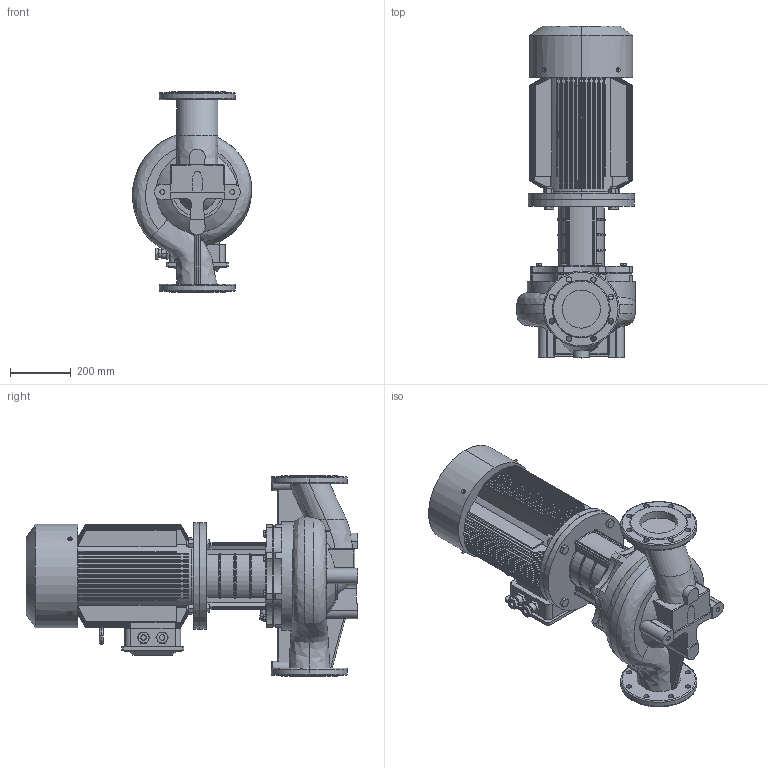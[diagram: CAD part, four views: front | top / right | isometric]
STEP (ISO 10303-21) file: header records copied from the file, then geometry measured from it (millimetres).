
FILE_DESCRIPTION(/* description */ (''),/* implementation_level */ '2;1');
FILE_NAME(/* name */ 'TD125-19-4安装尺寸图.stp',/* time_stamp */ '2026-09-07T16:34:58+08:00',/* author */ (''),/* organization */ (''),/* preprocessor_version */ 'ST-DEVELOPER v16.7',/* originating_system */ 'SIEMENS PLM Software NX 1847',/* authorisation */ '');
FILE_SCHEMA (('AP203_CONFIGURATION_CONTROLLED_3D_DESIGN_OF_MECHANICAL_PARTS_AND_ASSEMBLIES_MIM_LF { 1 0 10303 403 2 1 2}'));
Length unit declared in the file: millimetre
Products named in the file (1): Admi55F8EAC4z44l
Bounding box: 391.48 x 1091.5 x 660 mm (x, y, z)
Volume: 80310161.2 mm3; surface area: 4481728.5 mm2
Topology: 1 solids, 8 shells, 1664 faces, 4084 edges, 2482 vertices
Faces by surface type: plane 623, cylinder 470, cone 395, torus 91, sphere 46, bspline 39
Full cylindrical faces by diameter (mm): 8 x2, 10 x1, 11.701 x8, 12.9 x1, 16.63 x8, 17.623 x8, 25.34 x4, 250 x1, 260 x1, 349 x1
Entity records: 56132 total; most frequent: CARTESIAN_POINT 18368, ORIENTED_EDGE 7884, DIRECTION 7788, EDGE_CURVE 3942, AXIS2_PLACEMENT_3D 3160, VERTEX_POINT 2448, EDGE_LOOP 1862, ADVANCED_FACE 1664
